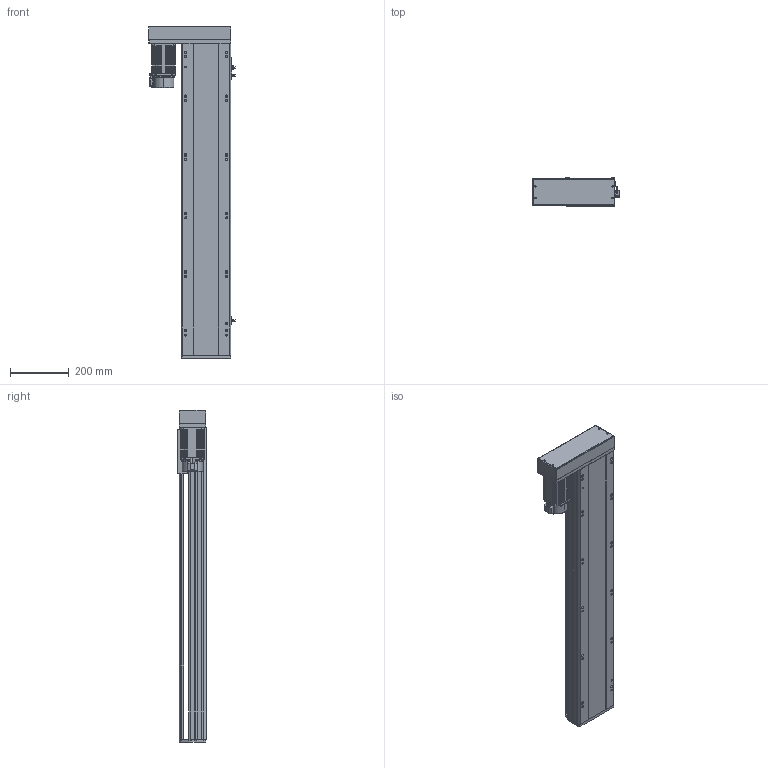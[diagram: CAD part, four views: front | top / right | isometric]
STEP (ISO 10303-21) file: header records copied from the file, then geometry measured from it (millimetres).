
FILE_DESCRIPTION (( 'STEP AP214' ), '1' );
FILE_NAME ('QTH17-850-BR-P75.STEP', '2021-11-13T09:30:59', ( '' ), ( '' ), 'SwSTEP 2.0', 'SolidWorks 2020', '' );
FILE_SCHEMA (( 'AUTOMOTIVE_DESIGN' ));
Length unit declared in the file: millimetre
Products named in the file (6): 葩璃 QTH17-BR-001 菁釱MZ-170-01^QTH17-BR-P75; 葩璃 侂狟750W^QTH17-BR-P75; 葩璃 pm-t65-672^QTH17-BR-P75; 葩璃 QTH17-BC-005 賑釱MZ-170-03 ^QTH17-BR-P75_SFA20; QTH17-850-BR-P75; 葩璃 QTH17-BL-002 奻裔MZ-170-02^QTH17-BR-P75
Assembly tree (7 placements, depth 2):
  QTH17-850-BR-P75
    葩璃 QTH17-BR-001 菁釱MZ-170-01^QTH17-BR-P75
    葩璃 QTH17-BL-002 奻裔MZ-170-02^QTH17-BR-P75
    葩璃 QTH17-BC-005 賑釱MZ-170-03 ^QTH17-BR-P75_SFA20
    葩璃 pm-t65-672^QTH17-BR-P75  x3
    葩璃 侂狟750W^QTH17-BR-P75
Bounding box: 293.7 x 97 x 1133.5 mm (x, y, z)
Volume: 11810970.6 mm3; surface area: 1316598.7 mm2
Topology: 13 solids, 13 shells, 1294 faces, 3463 edges, 2213 vertices
Faces by surface type: plane 768, cylinder 430, cone 67, bspline 29
Entity records: 34580 total; most frequent: CARTESIAN_POINT 6458, DIRECTION 5600, ORIENTED_EDGE 5506, EDGE_CURVE 2753, LINE 1886, VECTOR 1886, AXIS2_PLACEMENT_3D 1857, VERTEX_POINT 1789
